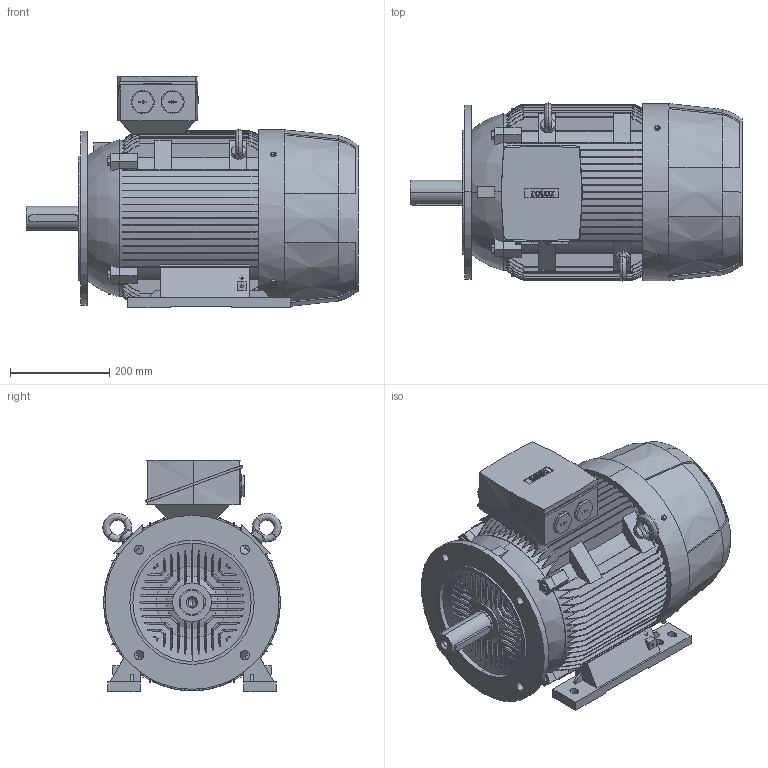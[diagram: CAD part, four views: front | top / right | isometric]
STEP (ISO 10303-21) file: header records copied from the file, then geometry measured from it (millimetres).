
FILE_DESCRIPTION (( 'STEP AP203' ), '1' );
FILE_NAME ('6RN180L08E24 IM2041.STEP', '2017-01-04T09:32:24', ( 'rotor' ), ( 'Hewlett-Packard Company' ), 'SwSTEP 2.0', 'SolidWorks 2015', '' );
FILE_SCHEMA (( 'CONFIG_CONTROL_DESIGN' ));
Products named in the file (1): 6RN180L08E24 IM2041
Bounding box: 668 x 358.44 x 466 mm (x, y, z)
Volume: 50941047.9 mm3; surface area: 1840436.1 mm2
Topology: 1 solids, 1 shells, 1331 faces, 3707 edges, 2439 vertices
Faces by surface type: plane 820, cylinder 291, bspline 194, cone 26
Entity records: 50986 total; most frequent: CARTESIAN_POINT 19106, ORIENTED_EDGE 7410, DIRECTION 5574, EDGE_CURVE 3705, VERTEX_POINT 2439, VECTOR 1980, LINE 1980, AXIS2_PLACEMENT_3D 1797
